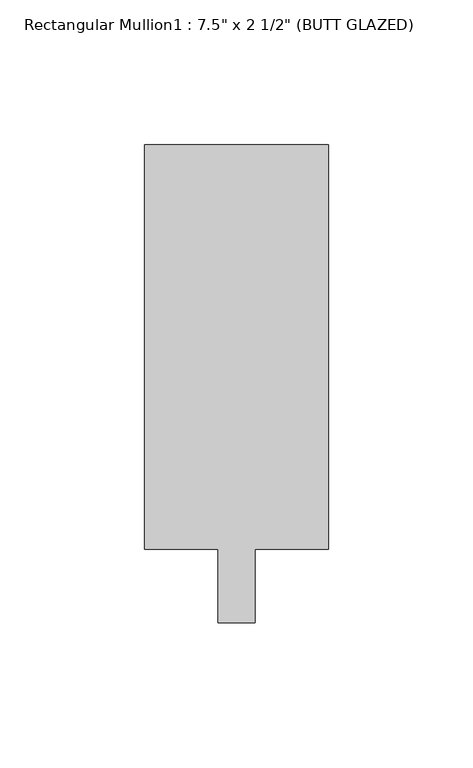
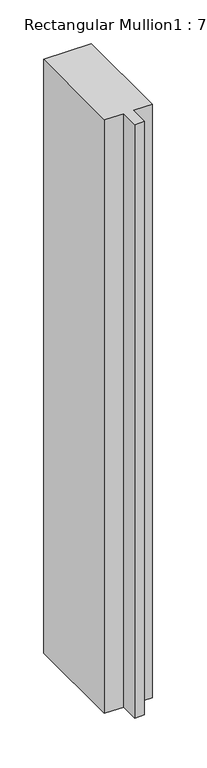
"""IFC4 building model written with IfcOpenShell, lengths in millimetres: member geometry."""

from ifc_helpers import new_model, si_unit, frame, origin, place, context, project, spatial, polyline, outline, extrude, source, transform, mapped, element, save


def member_5c518668(model_context):
    return source(origin(), model_context, "Body", "SweptSolid", [
        extrude(outline(polyline([(31.75, 165.1), (31.75, 25.4), (6.35, 25.4), (6.35, 0.0), (-6.35, 0.0), (-6.35, 25.4), (-31.75, 25.4), (-31.75, 165.1), (31.75, 165.1)])), frame((0.0, 0.0, -831.85), z_axis=(0.0, 0.0, 1.0), x_axis=(1.0, 0.0, 0.0)), (0.0, 0.0, 1.0), 831.85),
    ])


if __name__ == "__main__":
    model = new_model("IFC4")
    model_context = context("Model", 3, world=origin())
    ifc_project = project(units=[si_unit("LENGTHUNIT", "METRE", prefix="MILLI")], contexts=[model_context])
    site = spatial("IfcSite", under=ifc_project)
    building = spatial("IfcBuilding", under=site)
    placement = place(None, origin())
    member_shape = member_5c518668(model_context)
    element("IfcMember", 1, ObjectType="Rectangular Mullion1 : 7.5\" x 2 1/2\" (BUTT GLAZED)", at=placement, inside=building, context=model_context, shape_type="MappedRepresentation", body=[
        mapped(member_shape, transform((0.0, 0.0, 0.0), x_axis=(1.0, 0.0, 0.0), y_axis=(0.0, 1.0, 0.0), z_axis=(0.0, 0.0, 1.0))),
    ])
    save(model, "model.ifc")
